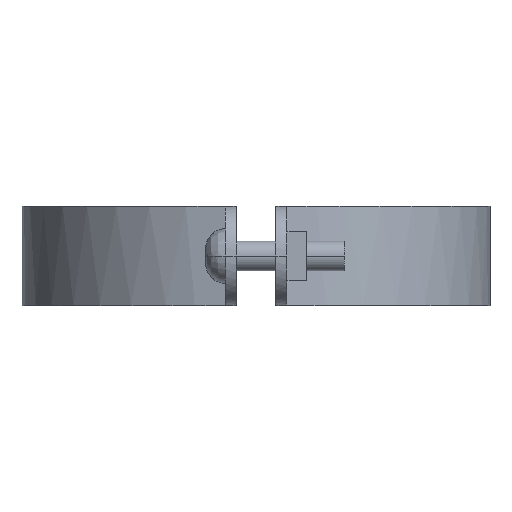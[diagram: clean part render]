
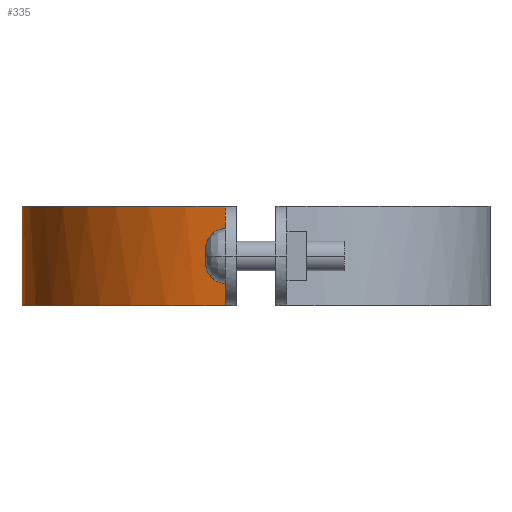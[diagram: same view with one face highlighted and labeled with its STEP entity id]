
A CAD part, left-side view. The second image highlights one B-rep face of the part: STEP entity #335.
In plain terms, the highlighted free-form (B-spline) face has degree [3, 1] with [4, 2] control points.
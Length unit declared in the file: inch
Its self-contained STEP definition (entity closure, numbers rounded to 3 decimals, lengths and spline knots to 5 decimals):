
#335=ADVANCED_FACE('',(#872),#873,.T.);
#443=EDGE_CURVE('',#1036,#1039,#1040,.T.);
#531=EDGE_CURVE('',#1160,#1042,#1161,.T.);
#737=EDGE_CURVE('',#1036,#1160,#1417,.T.);
#755=EDGE_CURVE('',#1042,#1039,#1437,.T.);
#872=FACE_OUTER_BOUND('',#1601,.T.);
#873=B_SPLINE_SURFACE_WITH_KNOTS('',3,1,((#1602,#1603),(#1604,#1605),(#1606,#1607),(#1608,#1609)),.UNSPECIFIED.,.F.,.F.,.F.,(4,4),(2,2),(-1.0,-0.0),(0.0,1.25),.UNSPECIFIED.);
#1036=VERTEX_POINT('',#2001);
#1039=VERTEX_POINT('',#2006);
#1040=LINE('',#2007,#2008);
#1042=VERTEX_POINT('',#2011);
#1160=VERTEX_POINT('',#2216);
#1161=LINE('',#2217,#2218);
#1417=B_SPLINE_CURVE_WITH_KNOTS('',3,(#2937,#2938,#2939,#2940),.UNSPECIFIED.,.F.,.F.,(4,4),(-1.0,-0.0),.UNSPECIFIED.);
#1437=B_SPLINE_CURVE_WITH_KNOTS('',3,(#2977,#2978,#2979,#2980),.UNSPECIFIED.,.F.,.F.,(4,4),(0.0,1.0),.UNSPECIFIED.);
#1601=EDGE_LOOP('',(#3107,#3108,#3109,#3110));
#1602=CARTESIAN_POINT('',(3.65919,5.89763,0.0));
#1603=CARTESIAN_POINT('',(3.65919,5.89763,1.25));
#1604=CARTESIAN_POINT('',(2.17864,5.89763,0.0));
#1605=CARTESIAN_POINT('',(2.17864,5.89763,1.25));
#1606=CARTESIAN_POINT('',(0.92734,4.80038,0.0));
#1607=CARTESIAN_POINT('',(0.92734,4.80038,1.25));
#1608=CARTESIAN_POINT('',(0.73395,3.33249,0.0));
#1609=CARTESIAN_POINT('',(0.73395,3.33249,1.25));
#2001=CARTESIAN_POINT('',(3.65919,5.89763,0.00011));
#2006=CARTESIAN_POINT('',(3.65919,5.89763,1.24992));
#2007=CARTESIAN_POINT('',(3.65919,5.89763,0.0));
#2008=VECTOR('',#3288,1.0);
#2011=CARTESIAN_POINT('',(0.73395,3.33249,1.24992));
#2216=CARTESIAN_POINT('',(0.73395,3.33249,0.00011));
#2217=CARTESIAN_POINT('',(0.73395,3.33249,0.0));
#2218=VECTOR('',#3412,1.0);
#2937=CARTESIAN_POINT('',(3.65919,5.89763,0.00011));
#2938=CARTESIAN_POINT('',(2.17864,5.89763,0.00011));
#2939=CARTESIAN_POINT('',(0.92734,4.80038,0.00011));
#2940=CARTESIAN_POINT('',(0.73395,3.33249,0.00011));
#2977=CARTESIAN_POINT('',(0.73395,3.33249,1.24992));
#2978=CARTESIAN_POINT('',(0.92734,4.80038,1.24992));
#2979=CARTESIAN_POINT('',(2.17864,5.89763,1.24992));
#2980=CARTESIAN_POINT('',(3.65919,5.89763,1.24992));
#3107=ORIENTED_EDGE('',*,*,#755,.T.);
#3108=ORIENTED_EDGE('',*,*,#443,.F.);
#3109=ORIENTED_EDGE('',*,*,#737,.T.);
#3110=ORIENTED_EDGE('',*,*,#531,.T.);
#3288=DIRECTION('',(0.0,0.0,1.0));
#3412=DIRECTION('',(0.0,0.0,1.0));
